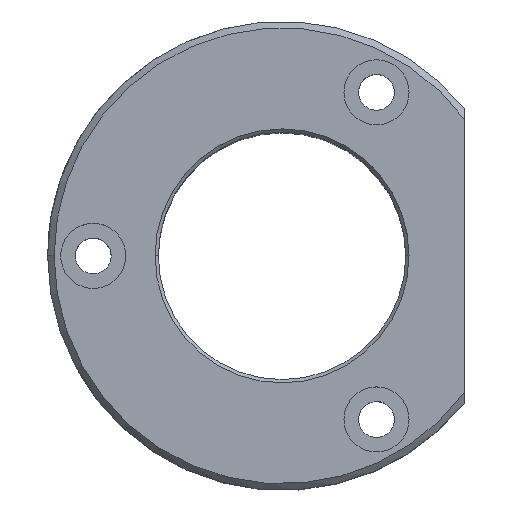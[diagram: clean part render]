
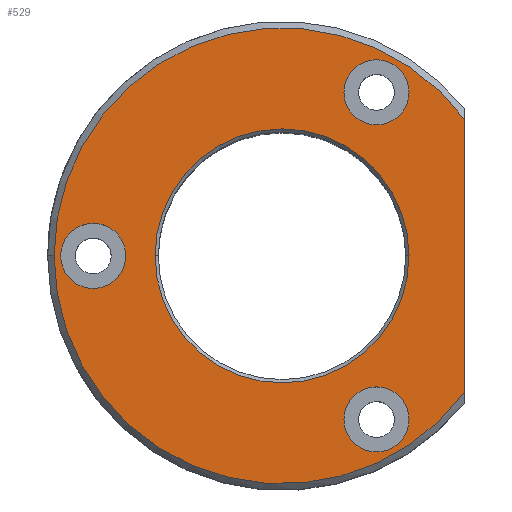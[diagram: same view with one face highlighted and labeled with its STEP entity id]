
A CAD part, top view. The second image highlights one B-rep face of the part: STEP entity #529.
In plain terms, the highlighted planar face has unit normal (0, 0, 1).
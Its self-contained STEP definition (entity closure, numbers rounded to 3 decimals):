
#87=CARTESIAN_POINT('Vertex',(28.,21.,25.)) ;
#90=CARTESIAN_POINT('Line Origine',(28.,0.,25.)) ;
#94=CARTESIAN_POINT('Vertex',(28.,-21.,25.)) ;
#427=CARTESIAN_POINT('Vertex',(-35.,0.,25.)) ;
#430=CARTESIAN_POINT('Axis2P3D Location',(0.,0.,25.)) ;
#442=CARTESIAN_POINT('Axis2P3D Location',(19.5,0.,25.)) ;
#447=CARTESIAN_POINT('Axis2P3D Location',(0.,0.,25.)) ;
#457=CARTESIAN_POINT('Axis2P3D Location',(-29.,0.,25.)) ;
#461=CARTESIAN_POINT('Vertex',(-34.,0.,25.)) ;
#463=CARTESIAN_POINT('Vertex',(-24.,0.,25.)) ;
#466=CARTESIAN_POINT('Axis2P3D Location',(-29.,0.,25.)) ;
#475=CARTESIAN_POINT('Axis2P3D Location',(14.5,-25.115,25.)) ;
#479=CARTESIAN_POINT('Vertex',(9.5,-25.115,25.)) ;
#481=CARTESIAN_POINT('Vertex',(19.5,-25.115,25.)) ;
#484=CARTESIAN_POINT('Axis2P3D Location',(14.5,-25.115,25.)) ;
#493=CARTESIAN_POINT('Axis2P3D Location',(14.5,25.115,25.)) ;
#497=CARTESIAN_POINT('Vertex',(9.5,25.115,25.)) ;
#499=CARTESIAN_POINT('Vertex',(19.5,25.115,25.)) ;
#502=CARTESIAN_POINT('Axis2P3D Location',(14.5,25.115,25.)) ;
#511=CARTESIAN_POINT('Axis2P3D Location',(0.,0.,25.)) ;
#515=CARTESIAN_POINT('Vertex',(-19.5,0.,25.)) ;
#517=CARTESIAN_POINT('Vertex',(19.5,0.,25.)) ;
#520=CARTESIAN_POINT('Axis2P3D Location',(0.,0.,25.)) ;
#91=DIRECTION('Vector Direction',(0.,-1.,0.)) ;
#431=DIRECTION('Axis2P3D Direction',(0.,0.,-1.)) ;
#443=DIRECTION('Axis2P3D Direction',(0.,-0.,1.)) ;
#444=DIRECTION('Axis2P3D XDirection',(1.,0.,0.)) ;
#448=DIRECTION('Axis2P3D Direction',(0.,-0.,1.)) ;
#458=DIRECTION('Axis2P3D Direction',(0.,-0.,1.)) ;
#467=DIRECTION('Axis2P3D Direction',(0.,-0.,1.)) ;
#476=DIRECTION('Axis2P3D Direction',(0.,-0.,1.)) ;
#485=DIRECTION('Axis2P3D Direction',(0.,-0.,1.)) ;
#494=DIRECTION('Axis2P3D Direction',(0.,-0.,1.)) ;
#503=DIRECTION('Axis2P3D Direction',(0.,-0.,1.)) ;
#512=DIRECTION('Axis2P3D Direction',(0.,-0.,1.)) ;
#521=DIRECTION('Axis2P3D Direction',(0.,-0.,1.)) ;
#432=AXIS2_PLACEMENT_3D('Circle Axis2P3D',#430,#431,$) ;
#445=AXIS2_PLACEMENT_3D('Plane Axis2P3D',#442,#443,#444) ;
#449=AXIS2_PLACEMENT_3D('Circle Axis2P3D',#447,#448,$) ;
#459=AXIS2_PLACEMENT_3D('Circle Axis2P3D',#457,#458,$) ;
#468=AXIS2_PLACEMENT_3D('Circle Axis2P3D',#466,#467,$) ;
#477=AXIS2_PLACEMENT_3D('Circle Axis2P3D',#475,#476,$) ;
#486=AXIS2_PLACEMENT_3D('Circle Axis2P3D',#484,#485,$) ;
#495=AXIS2_PLACEMENT_3D('Circle Axis2P3D',#493,#494,$) ;
#504=AXIS2_PLACEMENT_3D('Circle Axis2P3D',#502,#503,$) ;
#513=AXIS2_PLACEMENT_3D('Circle Axis2P3D',#511,#512,$) ;
#522=AXIS2_PLACEMENT_3D('Circle Axis2P3D',#520,#521,$) ;
#453=ORIENTED_EDGE('',*,*,#96,.F.) ;
#454=ORIENTED_EDGE('',*,*,#434,.T.) ;
#455=ORIENTED_EDGE('',*,*,#451,.T.) ;
#472=ORIENTED_EDGE('',*,*,#465,.F.) ;
#473=ORIENTED_EDGE('',*,*,#470,.F.) ;
#490=ORIENTED_EDGE('',*,*,#483,.F.) ;
#491=ORIENTED_EDGE('',*,*,#488,.F.) ;
#508=ORIENTED_EDGE('',*,*,#501,.F.) ;
#509=ORIENTED_EDGE('',*,*,#506,.F.) ;
#526=ORIENTED_EDGE('',*,*,#519,.F.) ;
#527=ORIENTED_EDGE('',*,*,#524,.F.) ;
#474=FACE_BOUND('',#471,.T.) ;
#492=FACE_BOUND('',#489,.T.) ;
#510=FACE_BOUND('',#507,.T.) ;
#528=FACE_BOUND('',#525,.T.) ;
#92=VECTOR('Line Direction',#91,1.) ;
#529=ADVANCED_FACE('737-30',(#456,#474,#492,#510,#528),#446,.T.) ;
#433=CIRCLE('generated circle',#432,35.) ;
#450=CIRCLE('generated circle',#449,35.) ;
#460=CIRCLE('generated circle',#459,5.) ;
#469=CIRCLE('generated circle',#468,5.) ;
#478=CIRCLE('generated circle',#477,5.) ;
#487=CIRCLE('generated circle',#486,5.) ;
#496=CIRCLE('generated circle',#495,5.) ;
#505=CIRCLE('generated circle',#504,5.) ;
#514=CIRCLE('generated circle',#513,19.5) ;
#523=CIRCLE('generated circle',#522,19.5) ;
#96=EDGE_CURVE('',#88,#95,#93,.T.) ;
#434=EDGE_CURVE('',#88,#428,#433,.F.) ;
#451=EDGE_CURVE('',#428,#95,#450,.T.) ;
#465=EDGE_CURVE('',#462,#464,#460,.T.) ;
#470=EDGE_CURVE('',#464,#462,#469,.T.) ;
#483=EDGE_CURVE('',#480,#482,#478,.T.) ;
#488=EDGE_CURVE('',#482,#480,#487,.T.) ;
#501=EDGE_CURVE('',#498,#500,#496,.T.) ;
#506=EDGE_CURVE('',#500,#498,#505,.T.) ;
#519=EDGE_CURVE('',#516,#518,#514,.T.) ;
#524=EDGE_CURVE('',#518,#516,#523,.T.) ;
#452=EDGE_LOOP('',(#453,#454,#455)) ;
#471=EDGE_LOOP('',(#472,#473)) ;
#489=EDGE_LOOP('',(#490,#491)) ;
#507=EDGE_LOOP('',(#508,#509)) ;
#525=EDGE_LOOP('',(#526,#527)) ;
#456=FACE_OUTER_BOUND('',#452,.T.) ;
#93=LINE('Line',#90,#92) ;
#446=PLANE('Plane',#445) ;
#88=VERTEX_POINT('',#87) ;
#95=VERTEX_POINT('',#94) ;
#428=VERTEX_POINT('',#427) ;
#462=VERTEX_POINT('',#461) ;
#464=VERTEX_POINT('',#463) ;
#480=VERTEX_POINT('',#479) ;
#482=VERTEX_POINT('',#481) ;
#498=VERTEX_POINT('',#497) ;
#500=VERTEX_POINT('',#499) ;
#516=VERTEX_POINT('',#515) ;
#518=VERTEX_POINT('',#517) ;
